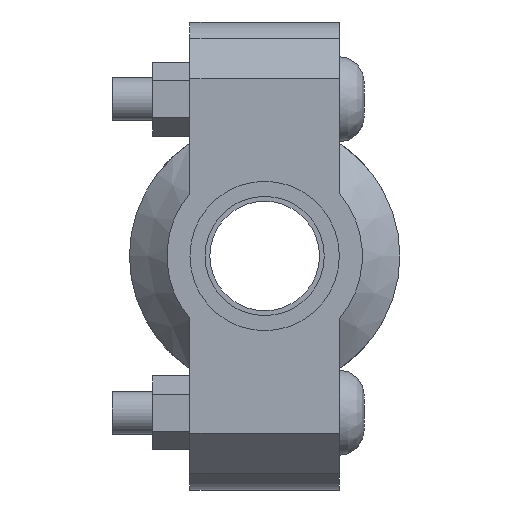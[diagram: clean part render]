
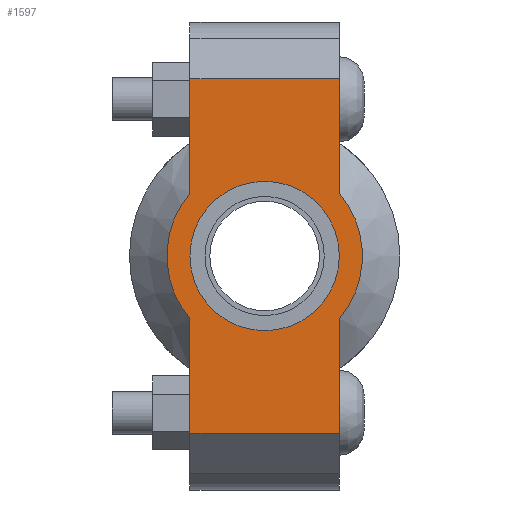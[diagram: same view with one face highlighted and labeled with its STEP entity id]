
A CAD part, left-side view. The second image highlights one B-rep face of the part: STEP entity #1597.
In plain terms, the highlighted planar face has unit normal (-1, 0, 0) as drawn and (0, 0, 1) by its records, which use the part's own axes.
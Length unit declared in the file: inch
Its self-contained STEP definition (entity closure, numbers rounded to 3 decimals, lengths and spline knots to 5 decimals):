
#152=LINE('',#2761,#249);
#167=LINE('',#2820,#264);
#175=LINE('',#2850,#272);
#177=LINE('',#2853,#274);
#178=LINE('',#2858,#275);
#179=LINE('',#2859,#276);
#249=VECTOR('',#2249,0.3937);
#264=VECTOR('',#2284,0.3937);
#272=VECTOR('',#2304,0.3937);
#274=VECTOR('',#2308,0.3937);
#275=VECTOR('',#2313,0.3937);
#276=VECTOR('',#2314,0.3937);
#340=FACE_BOUND('',#517,.T.);
#408=FACE_OUTER_BOUND('',#516,.T.);
#516=EDGE_LOOP('',(#1298,#1299,#1300,#1301,#1302,#1303,#1304,#1305));
#517=EDGE_LOOP('',(#1306));
#599=CIRCLE('',#1825,0.6575);
#623=CIRCLE('',#1877,0.86);
#624=CIRCLE('',#1878,0.86);
#695=VERTEX_POINT('',#2587);
#736=VERTEX_POINT('',#2758);
#737=VERTEX_POINT('',#2760);
#758=VERTEX_POINT('',#2815);
#759=VERTEX_POINT('',#2819);
#768=VERTEX_POINT('',#2845);
#769=VERTEX_POINT('',#2849);
#770=VERTEX_POINT('',#2855);
#771=VERTEX_POINT('',#2857);
#859=EDGE_CURVE('',#695,#695,#599,.T.);
#916=EDGE_CURVE('',#737,#736,#152,.T.);
#941=EDGE_CURVE('',#759,#758,#167,.T.);
#954=EDGE_CURVE('',#769,#768,#175,.T.);
#956=EDGE_CURVE('',#769,#736,#177,.T.);
#957=EDGE_CURVE('',#768,#770,#623,.T.);
#958=EDGE_CURVE('',#770,#771,#178,.T.);
#959=EDGE_CURVE('',#759,#771,#179,.T.);
#960=EDGE_CURVE('',#758,#737,#624,.T.);
#1298=ORIENTED_EDGE('',*,*,#956,.F.);
#1299=ORIENTED_EDGE('',*,*,#954,.T.);
#1300=ORIENTED_EDGE('',*,*,#957,.T.);
#1301=ORIENTED_EDGE('',*,*,#958,.T.);
#1302=ORIENTED_EDGE('',*,*,#959,.F.);
#1303=ORIENTED_EDGE('',*,*,#941,.T.);
#1304=ORIENTED_EDGE('',*,*,#960,.T.);
#1305=ORIENTED_EDGE('',*,*,#916,.T.);
#1306=ORIENTED_EDGE('',*,*,#859,.T.);
#1437=PLANE('',#1876);
#1597=ADVANCED_FACE('',(#408,#340),#1437,.T.);
#1825=AXIS2_PLACEMENT_3D('',#2589,#2139,#2140);
#1876=AXIS2_PLACEMENT_3D('',#2854,#2309,#2310);
#1877=AXIS2_PLACEMENT_3D('',#2856,#2311,#2312);
#1878=AXIS2_PLACEMENT_3D('',#2860,#2315,#2316);
#2139=DIRECTION('center_axis',(0.,0.,-1.));
#2140=DIRECTION('ref_axis',(-1.,0.,0.));
#2249=DIRECTION('',(-1.,0.,0.));
#2284=DIRECTION('',(-1.,0.,0.));
#2304=DIRECTION('',(1.,0.,0.));
#2308=DIRECTION('',(0.,1.,0.));
#2309=DIRECTION('center_axis',(0.,0.,1.));
#2310=DIRECTION('ref_axis',(1.,0.,0.));
#2311=DIRECTION('center_axis',(0.,0.,1.));
#2312=DIRECTION('ref_axis',(-1.,0.,0.));
#2313=DIRECTION('',(1.,0.,0.));
#2314=DIRECTION('',(0.,-1.,0.));
#2315=DIRECTION('center_axis',(0.,0.,1.));
#2316=DIRECTION('ref_axis',(-1.,0.,0.));
#2587=CARTESIAN_POINT('',(0.6575,0.,0.875));
#2589=CARTESIAN_POINT('Origin',(0.,0.,0.875));
#2758=CARTESIAN_POINT('',(-1.56,0.6575,0.875));
#2760=CARTESIAN_POINT('',(-0.55434,0.6575,0.875));
#2761=CARTESIAN_POINT('',(2.06,0.6575,0.875));
#2815=CARTESIAN_POINT('',(0.55434,0.6575,0.875));
#2819=CARTESIAN_POINT('',(1.56,0.6575,0.875));
#2820=CARTESIAN_POINT('',(2.06,0.6575,0.875));
#2845=CARTESIAN_POINT('',(-0.55434,-0.6575,0.875));
#2849=CARTESIAN_POINT('',(-1.56,-0.6575,0.875));
#2850=CARTESIAN_POINT('',(-2.06,-0.6575,0.875));
#2853=CARTESIAN_POINT('',(-1.56,0.32875,0.875));
#2854=CARTESIAN_POINT('Origin',(0.,0.,
0.875));
#2855=CARTESIAN_POINT('',(0.55434,-0.6575,0.875));
#2856=CARTESIAN_POINT('Origin',(0.,0.,0.875));
#2857=CARTESIAN_POINT('',(1.56,-0.6575,0.875));
#2858=CARTESIAN_POINT('',(-2.06,-0.6575,0.875));
#2859=CARTESIAN_POINT('',(1.56,-0.32875,0.875));
#2860=CARTESIAN_POINT('Origin',(0.,0.,0.875));
